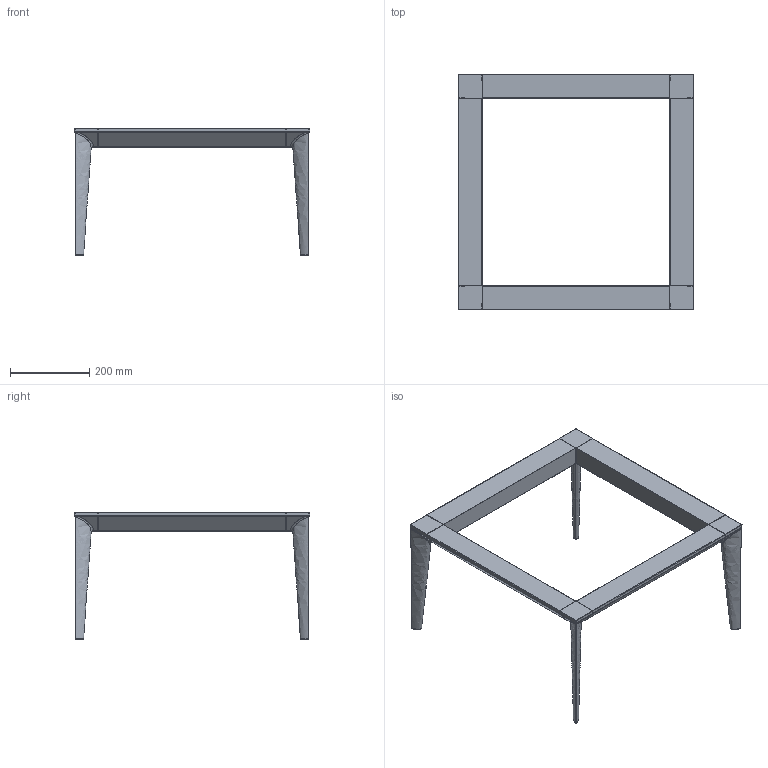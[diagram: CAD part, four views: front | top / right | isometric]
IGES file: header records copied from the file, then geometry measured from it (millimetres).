
Global section: file name: C:\Users\alberto.volpato\Desktop\Files\BASE.igs; native system: Rhinoceros ( Mar  9 2011 ); preprocessor: Trout Lake IGES 012 Mar  9 2011; date: 160505.080837; units: millimetre
Bounding box: 594.09 x 594.07 x 323.19 mm (x, y, z)
Surface area: 585006 mm2 (no closed solid volume)
Topology: 0 solids, 0 shells, 488 faces, 4364 edges, 4340 vertices
Faces by surface type: bspline 488
